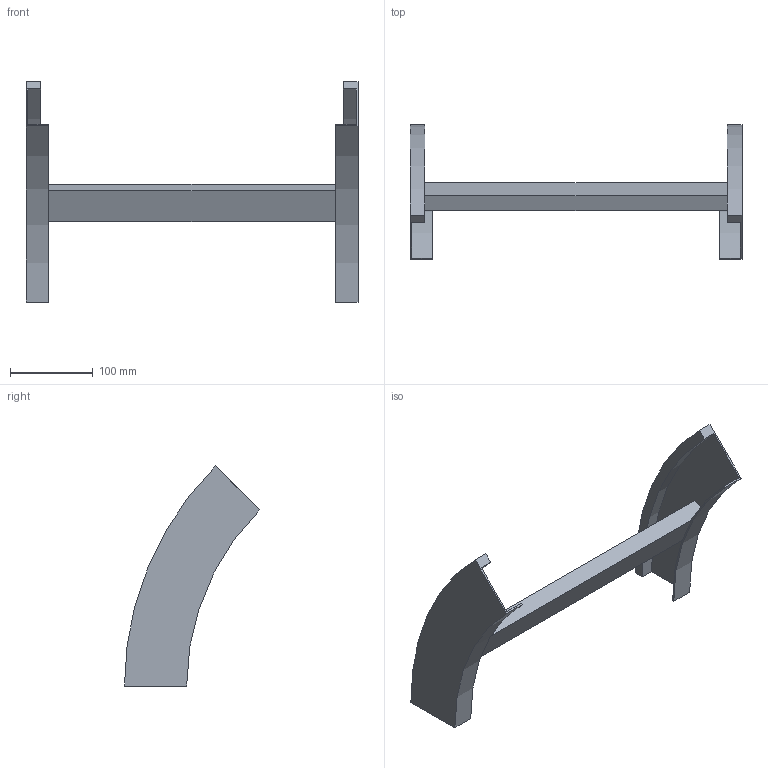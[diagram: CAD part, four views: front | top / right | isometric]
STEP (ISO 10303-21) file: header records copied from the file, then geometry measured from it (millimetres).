
FILE_DESCRIPTION (( 'STEP AP214' ), '1' );
FILE_NAME ('B2_34B3C400.step', '2025-02-21T14:55:31', ( '' ), ( '' ), 'SwSTEP 2.0', 'SolidWorks 2023', '' );
FILE_SCHEMA (( 'AUTOMOTIVE_DESIGN' ));
Length unit declared in the file: millimetre
Products named in the file (3): B2_LONGH.DISCESA_45°_H75_R300; B2_34B3C400; TRAVERSINO_400
Assembly tree (3 placements, depth 2):
  B2_34B3C400
    B2_LONGH.DISCESA_45°_H75_R300  x2
    TRAVERSINO_400
Bounding box: 400 x 162.87 x 265.17 mm (x, y, z)
Volume: 535209.8 mm3; surface area: 174934.6 mm2
Topology: 3 solids, 3 shells, 26 faces, 60 edges, 40 vertices
Faces by surface type: plane 18, cylinder 8
Entity records: 544 total; most frequent: DIRECTION 88, CARTESIAN_POINT 82, ORIENTED_EDGE 72, EDGE_CURVE 36, AXIS2_PLACEMENT_3D 30, VECTOR 28, LINE 28, VERTEX_POINT 24
